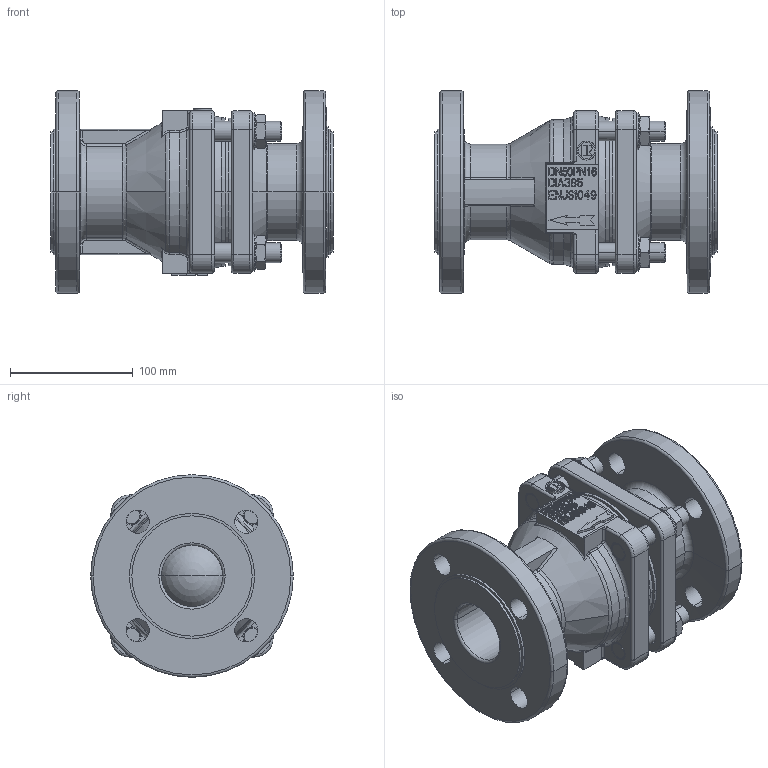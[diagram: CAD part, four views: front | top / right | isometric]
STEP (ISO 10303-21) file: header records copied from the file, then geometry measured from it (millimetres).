
FILE_DESCRIPTION((''),'2;1');
FILE_NAME('9595-50-0304_E_CV50_PROE','2015-03-24T',('SParmar1'),(''),'PRO/ENGINEER BY PARAMETRIC TECHNOLOGY CORPORATION, 2011040','PRO/ENGINEER BY PARAMETRIC TECHNOLOGY CORPORATION, 2011040','');
FILE_SCHEMA(('CONFIG_CONTROL_DESIGN'));
Length unit declared in the file: millimetre
Products named in the file (1): 9595-50-0304_E_CV50_PROE
Bounding box: 230 x 165 x 165 mm (x, y, z)
Volume: 1886969 mm3; surface area: 250108.7 mm2
Topology: 1 solids, 13 shells, 1088 faces, 2922 edges, 1892 vertices
Faces by surface type: plane 656, cylinder 173, extrusion 93, cone 88, torus 48, bspline 26, sphere 4
Entity records: 35640 total; most frequent: CARTESIAN_POINT 9003, ORIENTED_EDGE 5748, DIRECTION 5025, EDGE_CURVE 2902, VECTOR 2019, LINE 1926, VERTEX_POINT 1884, AXIS2_PLACEMENT_3D 1503
